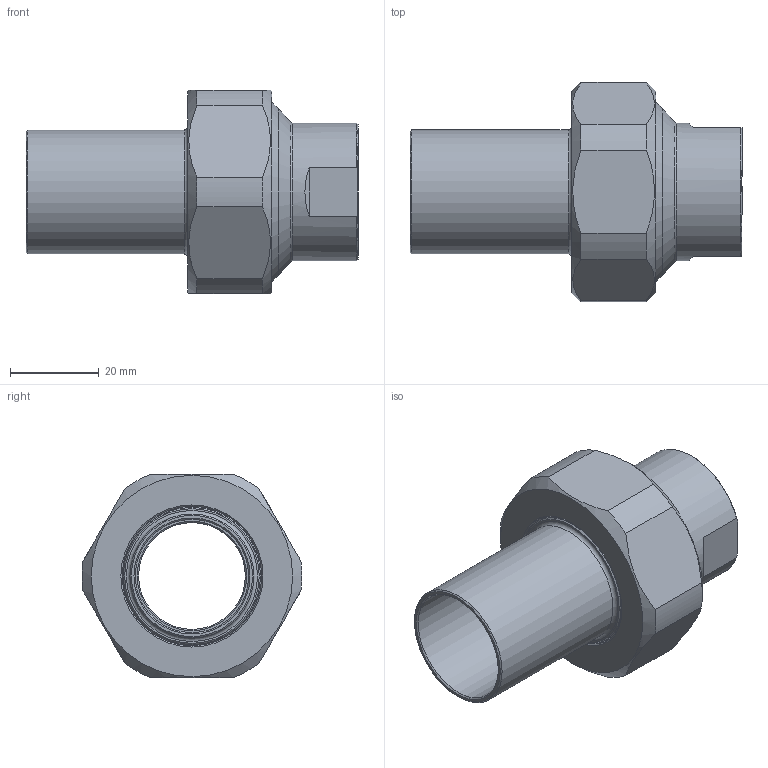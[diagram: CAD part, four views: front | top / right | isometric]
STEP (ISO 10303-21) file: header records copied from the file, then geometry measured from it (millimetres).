
FILE_DESCRIPTION(/* description */ (''),/* implementation_level */ '2;1');
FILE_NAME(/* name */ 'C:\Users\cad\Desktop\Zeichnungen neu von Ralph\Ganze Kupplungen\3D_Kupplung-R666-PE-G\3D_R666-PE-G-28-DN32-DN20_1711309395.stp',/* time_stamp */ '2021-07-16T08:32:47+02:00',/* author */ ('cad'),/* organization */ (''),/* preprocessor_version */ 'ST-DEVELOPER v18.1',/* originating_system */ 'Autodesk Inventor 2022',/* authorisation */ '');
FILE_SCHEMA (('AUTOMOTIVE_DESIGN { 1 0 10303 214 3 1 1 }'));
Length unit declared in the file: millimetre
Products named in the file (4): 3D_R666-PE-G-28-DN32-DN20_1711309395; 3D_R666-M-DN32_17113940; 3D_R666-G-DN20-DN32_17113530; 3D_R666-PE-28-DN32_17113477
Assembly tree (3 placements, depth 2):
  3D_R666-PE-G-28-DN32-DN20_1711309395
    3D_R666-M-DN32_17113940
    3D_R666-G-DN20-DN32_17113530
    3D_R666-PE-28-DN32_17113477
Bounding box: 75 x 49.67 x 46 mm (x, y, z)
Volume: 35139.1 mm3; surface area: 22109.3 mm2
Topology: 3 solids, 3 shells, 56 faces, 138 edges, 91 vertices
Faces by surface type: plane 19, cone 18, cylinder 15, torus 4
Full cylindrical faces by diameter (mm): 24.117 x1, 25.6 x1, 28 x1, 31 x2, 31.5 x1, 38 x1, 38.952 x1, 41.8 x1
Entity records: 1834 total; most frequent: DIRECTION 325, CARTESIAN_POINT 324, ORIENTED_EDGE 276, AXIS2_PLACEMENT_3D 140, EDGE_CURVE 138, VERTEX_POINT 91, CIRCLE 75, EDGE_LOOP 65
